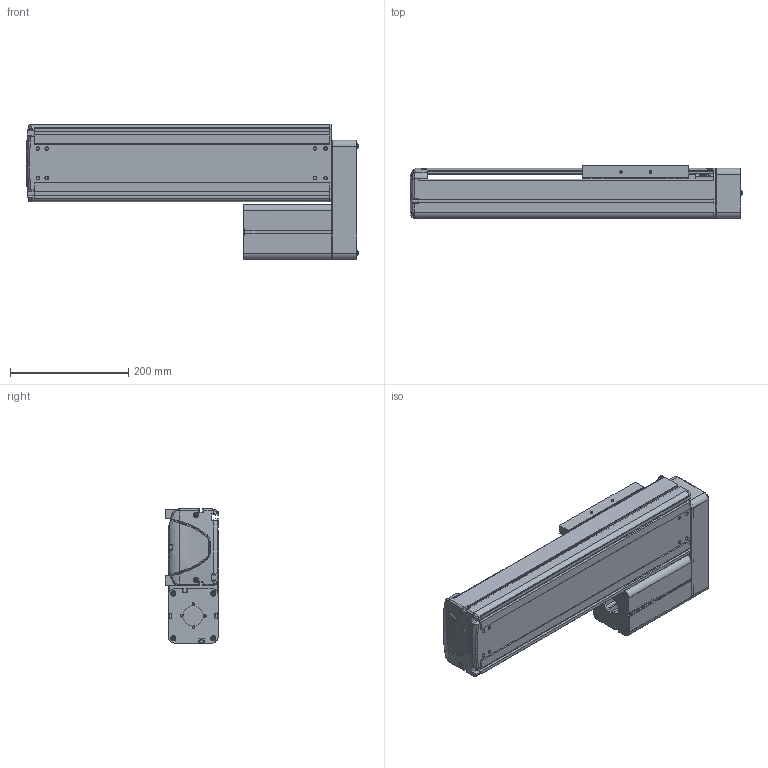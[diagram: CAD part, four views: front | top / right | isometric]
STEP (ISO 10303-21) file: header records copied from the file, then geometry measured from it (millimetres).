
FILE_DESCRIPTION((''),'2;1');
FILE_NAME('BE30E-UL-L_N-25_IGS_PRT','2017-06-17T',(' '),(''),'PRO/ENGINEER BY PARAMETRIC TECHNOLOGY CORPORATION, 2015030','PRO/ENGINEER BY PARAMETRIC TECHNOLOGY CORPORATION, 2015030','');
FILE_SCHEMA(('CONFIG_CONTROL_DESIGN'));
Products named in the file (1): BE30E-UL-L_N-25_IGS_PRT
Bounding box: 561.9 x 89.8 x 227 mm (x, y, z)
Volume: 2250850.4 mm3; surface area: 976436.8 mm2
Topology: 2 solids, 108 shells, 1978 faces, 5311 edges, 3444 vertices
Faces by surface type: plane 993, cylinder 790, cone 101, torus 39, bspline 31, sphere 24
Entity records: 63892 total; most frequent: CARTESIAN_POINT 13547, DIRECTION 10637, ORIENTED_EDGE 10146, EDGE_CURVE 5273, AXIS2_PLACEMENT_3D 3721, VERTEX_POINT 3444, VECTOR 3195, LINE 3195
